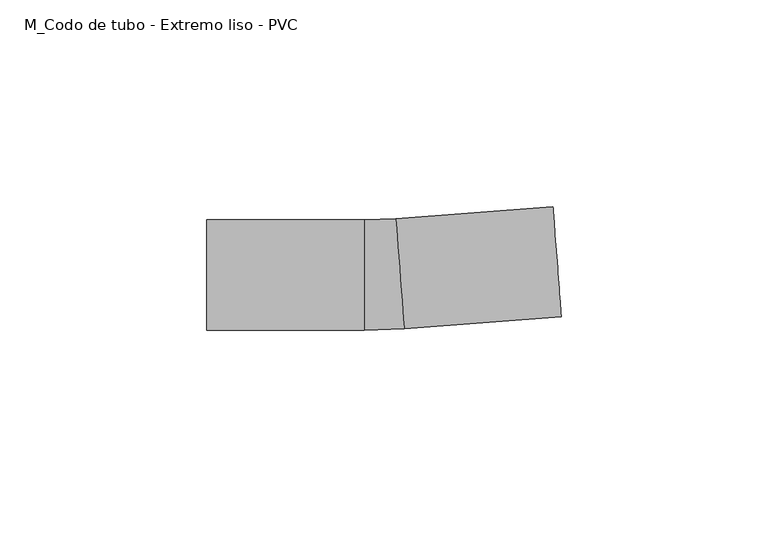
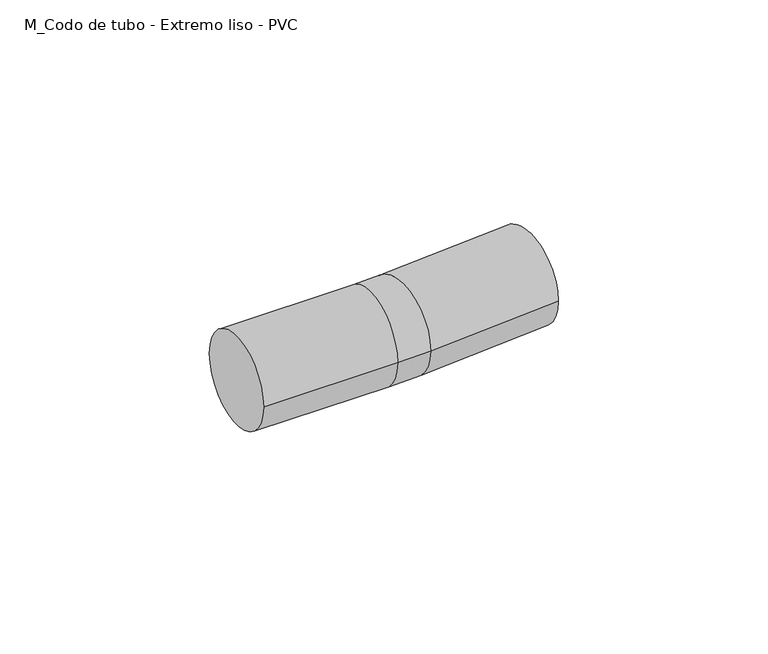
"""IFC4 building model written with IfcOpenShell, lengths in millimetres: cable carrier fitting geometry, M_Codo de tubo - Extremo liso - PVC : CODO POTENCIA."""

from ifc_helpers import new_model, si_unit, point, frame, origin, place, context, project, spatial, circle_curve, ellipse_curve, trimmed, source, transform, mapped, element, save
from ifc_brep_helpers import plane_surface, cylinder_surface, revolved_surface, advanced_brep


def m_codo_de_tubo_extremo_liso_pvc_e945fc89(model_context):
    return source(origin(), model_context, "Body", "AdvancedBrep", [
        advanced_brep(
        [(-42.4144992, -13.335, 0.0), (-42.4144992, 13.335, 0.0), (-4.3144992, -13.335, 0.0), (-4.3144992, 13.335, 0.0), (3.2969376, 13.62231, 0.0), (5.3075057, -12.9717967, 0.0), (43.2990869, -10.0995565, 0.0), (41.2885187, 16.4945503, 0.0)],
        [
            (0, 1, circle_curve(frame((-42.4144992, 0.0, 0.0), z_axis=(-1.0, 0.0, 0.0), x_axis=(0.0, 1.0, 0.0)), 13.335)),
            (1, 0, circle_curve(frame((-42.4144992, 0.0, 0.0), z_axis=(-1.0, 0.0, 0.0), x_axis=(0.0, 1.0, 0.0)), 13.335)),
            (0, 2),
            (2, 3, circle_curve(frame((-4.3144992, 0.0, 0.0), z_axis=(-1.0, 0.0, 0.0), x_axis=(0.0, 1.0, 0.0)), 13.335)),
            (3, 1),
            (3, 2, circle_curve(frame((-4.3144992, 0.0, 0.0), z_axis=(-1.0, 0.0, 0.0), x_axis=(0.0, 1.0, 0.0)), 13.335)),
            (4, 3, circle_curve(frame((-4.3144992, 114.3, 0.0), z_axis=(0.0, 0.0, -1.0), x_axis=(0.0, -1.0, 0.0)), 100.965)),
            (2, 5, circle_curve(frame((-4.3144992, 114.3, 0.0), z_axis=(0.0, 0.0, 1.0), x_axis=(0.0, -1.0, 0.0)), 127.635)),
            (5, 4, circle_curve(frame((4.3022217, 0.3252566, 0.0), z_axis=(-0.9971543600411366, -0.07538688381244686, 0.0), x_axis=(-0.07538688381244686, 0.9971543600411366, 0.0)), 13.335)),
            (4, 5, circle_curve(frame((4.3022217, 0.3252566, 0.0), z_axis=(-0.9971543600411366, -0.07538688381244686, 0.0), x_axis=(-0.07538688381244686, 0.9971543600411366, 0.0)), 13.335)),
            (6, 7, circle_curve(frame((42.2938028, 3.1974969, 0.0), z_axis=(0.9971543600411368, 0.07538688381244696, 0.0), x_axis=(-0.07538688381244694, 0.9971543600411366, 0.0)), 13.335)),
            (7, 6, circle_curve(frame((42.2938028, 3.1974969, 0.0), z_axis=(0.9971543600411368, 0.07538688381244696, 0.0), x_axis=(-0.07538688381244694, 0.9971543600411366, 0.0)), 13.335)),
            (5, 6),
            (7, 4),
        ],
        [
            plane_surface(frame((-42.4144992, 0.0, 0.0), z_axis=(-1.0, 0.0, 0.0), x_axis=(0.0, 0.0, 1.0))),
            cylinder_surface(frame((-42.4144992, 0.0, 0.0), z_axis=(-1.0, 0.0, 0.0), x_axis=(0.0, 1.0, 0.0)), 13.335),
            revolved_surface(trimmed(ellipse_curve(frame((-4.3144992, 0.0, 0.0), z_axis=(-1.0, 0.0, 0.0), x_axis=(0.0, 1.0, 0.0)), 13.335, 13.335), [point((-4.3144992, -13.335, 0.0))], [point((-4.3144992, 13.335, 0.0))], True, "CARTESIAN"), (-4.3144992, 114.3, 0.0), (0.0, 0.0, 1.0)),
            revolved_surface(trimmed(ellipse_curve(frame((-4.3144992, 0.0, 0.0), z_axis=(-1.0, 0.0, 0.0), x_axis=(0.0, 1.0, 0.0)), 13.335, 13.335), [point((-4.3144992, 13.335, 0.0))], [point((-4.3144992, -13.335, 0.0))], True, "CARTESIAN"), (-4.3144992, 114.3, 0.0), (0.0, 0.0, 1.0)),
            plane_surface(frame((42.2938028, 3.1974969, 0.0), z_axis=(0.9971543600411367, 0.07538688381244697, 0.0), x_axis=(0.0, 0.0, 1.0))),
            cylinder_surface(frame((4.3022217, 0.3252566, 0.0), z_axis=(-0.9971543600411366, -0.07538688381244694, 0.0), x_axis=(-0.07538688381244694, 0.9971543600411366, 0.0)), 13.335),
        ],
        [
            (0, [[1, 2]]),
            (1, [[-1, 3, 4, 5]]),
            (1, [[-2, -5, 6, -3]]),
            (2, [[7, -4, 8, 9]]),
            (3, [[-8, -6, -7, 10]]),
            (4, [[11, 12]]),
            (5, [[-9, 13, -12, 14]]),
            (5, [[-10, -14, -11, -13]]),
        ],
    ),
    ])


if __name__ == "__main__":
    model = new_model("IFC4")
    model_context = context("Model", 3, world=origin())
    ifc_project = project(units=[si_unit("LENGTHUNIT", "METRE", prefix="MILLI")], contexts=[model_context])
    site = spatial("IfcSite", under=ifc_project)
    building = spatial("IfcBuilding", under=site)
    placement = place(None, origin())
    m_codo_de_tubo_extremo_liso_pvc_shape = m_codo_de_tubo_extremo_liso_pvc_e945fc89(model_context)
    element("IfcCableCarrierFitting", 1, ObjectType="M_Codo de tubo - Extremo liso - PVC : CODO POTENCIA", at=placement, inside=building, context=model_context, shape_type="MappedRepresentation", body=[
        mapped(m_codo_de_tubo_extremo_liso_pvc_shape, transform((0.0, 0.0, 0.0), x_axis=(1.0, 0.0, 0.0), y_axis=(0.0, 1.0, 0.0), z_axis=(0.0, 0.0, 1.0))),
    ])
    save(model, "model.ifc")
